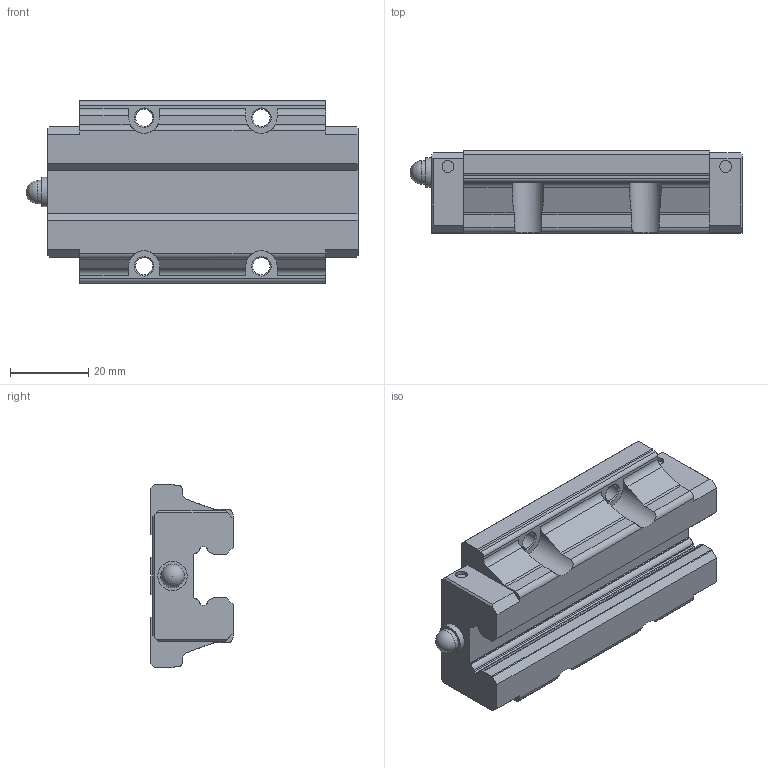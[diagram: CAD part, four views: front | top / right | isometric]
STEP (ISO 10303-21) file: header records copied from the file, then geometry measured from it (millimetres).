
FILE_DESCRIPTION(/* description */ ('STEP AP214'),/* implementation_level */ '2;1');
FILE_NAME(/* name */ 'SHS15LC1SS(GK) BLOCK(PB1021B1)',/* time_stamp */ '2023-05-26T08:31:15+02:00',/* author */ ('License CC BY-ND 4.0'),/* organization */ ('CADENAS'),/* preprocessor_version */ 'ST-DEVELOPER v19.3',/* originating_system */ 'PARTsolutions',/* authorisation */ ' ');
FILE_SCHEMA (('AUTOMOTIVE_DESIGN {1 0 10303 214 3 1 1}'));
Length unit declared in the file: millimetre
Products named in the file (3): SHS15LC1SS(GK) BLOCK(PB1021B1); PB1021B-SHS_grease_nipple_joint; SHS15LCSSPB1021B1 Slide25-55
Assembly tree (2 placements, depth 2):
  SHS15LC1SS(GK) BLOCK(PB1021B1)
    PB1021B-SHS_grease_nipple_joint
    SHS15LCSSPB1021B1 Slide25-55
Bounding box: 84.9 x 21 x 47 mm (x, y, z)
Volume: 52768.5 mm3; surface area: 13786.5 mm2
Topology: 2 solids, 2 shells, 151 faces, 420 edges, 280 vertices
Faces by surface type: plane 87, cylinder 55, cone 8, sphere 1
Full cylindrical faces by diameter (mm): 3 x4, 4 x3, 4.4 x4, 6 x1, 7.5 x1
Entity records: 4767 total; most frequent: CARTESIAN_POINT 876, DIRECTION 790, ORIENTED_EDGE 776, EDGE_CURVE 388, VERTEX_POINT 270, AXIS2_PLACEMENT_3D 264, LINE 262, VECTOR 262
